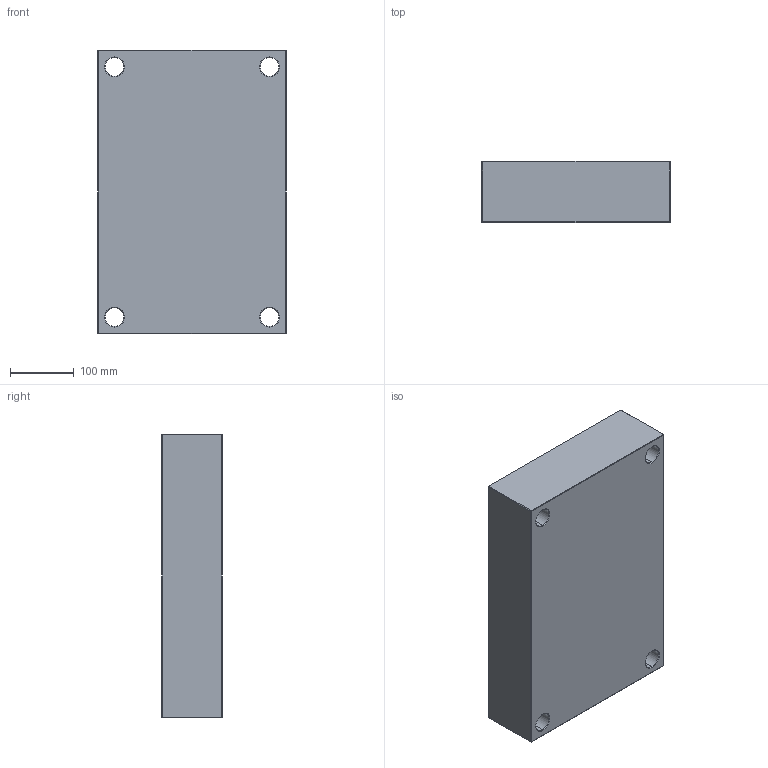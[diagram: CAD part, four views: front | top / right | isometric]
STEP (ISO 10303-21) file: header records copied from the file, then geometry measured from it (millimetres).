
FILE_DESCRIPTION (( 'STEP AP214' ), '1' );
FILE_NAME ('PCX-296x446x96.STEP', '2020-05-04T08:28:22', ( 'August' ), ( '' ), 'SwSTEP 2.0', 'SolidWorks 2018', '' );
FILE_SCHEMA (( 'AUTOMOTIVE_DESIGN' ));
Length unit declared in the file: millimetre
Products named in the file (1): PCX-296x446x96
Bounding box: 296 x 96 x 446 mm (x, y, z)
Volume: 12391281.2 mm3; surface area: 438153.3 mm2
Topology: 1 solids, 1 shells, 82 faces, 168 edges, 96 vertices
Faces by surface type: plane 34, cone 24, cylinder 24
Entity records: 2170 total; most frequent: DIRECTION 406, CARTESIAN_POINT 347, ORIENTED_EDGE 336, EDGE_CURVE 168, AXIS2_PLACEMENT_3D 155, EDGE_LOOP 98, LINE 96, VERTEX_POINT 96
